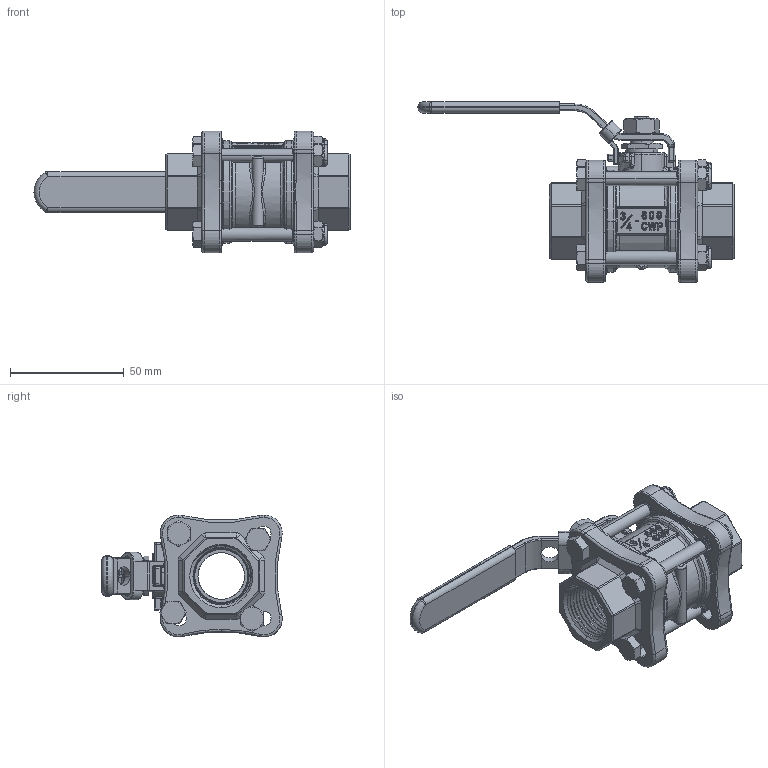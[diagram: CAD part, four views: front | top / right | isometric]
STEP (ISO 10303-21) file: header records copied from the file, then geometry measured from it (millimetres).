
FILE_DESCRIPTION (( 'STEP AP203' ), '1' );
FILE_NAME ('T-20.STEP', '2025-02-27T05:15:31', ( 'user' ), ( '' ), 'SwSTEP 2.0', 'SolidWorks 2012', '' );
FILE_SCHEMA (( 'CONFIG_CONTROL_DESIGN' ));
Length unit declared in the file: millimetre
Products named in the file (17): T-20; 14-HANDLE COVER; 掛鎖; 15-HANDLE NUT; 13-HANDLE; 12-CAP BOLT; 11-CAP NUT; 10-GLAND; 9-BODY SEAL; 8-GLAND PACKING; 7-0-RING; 6-THRUST WASHER; 5-SEAT; 4-STEM; 3-BALL; 2-CAP; 1-BODY
Assembly tree (26 placements, depth 2):
  T-20
    1-BODY
    2-CAP  x2
    3-BALL
    4-STEM
    5-SEAT  x2
    6-THRUST WASHER
    7-0-RING  x2
    8-GLAND PACKING
    9-BODY SEAL  x2
    10-GLAND
    11-CAP NUT  x4
    12-CAP BOLT  x4
    13-HANDLE
    15-HANDLE NUT
    掛鎖
    14-HANDLE COVER
Bounding box: 138.86 x 79.3 x 53.58 mm (x, y, z)
Volume: 103602.1 mm3; surface area: 65500.5 mm2
Topology: 26 solids, 26 shells, 1719 faces, 4282 edges, 2601 vertices
Faces by surface type: cylinder 515, bspline 409, plane 369, cone 240, torus 134, sphere 52
Entity records: 88714 total; most frequent: CARTESIAN_POINT 60961, ORIENTED_EDGE 5948, DIRECTION 4602, EDGE_CURVE 2974, AXIS2_PLACEMENT_3D 1880, VERTEX_POINT 1814, EDGE_LOOP 1298, FACE_OUTER_BOUND 1226
